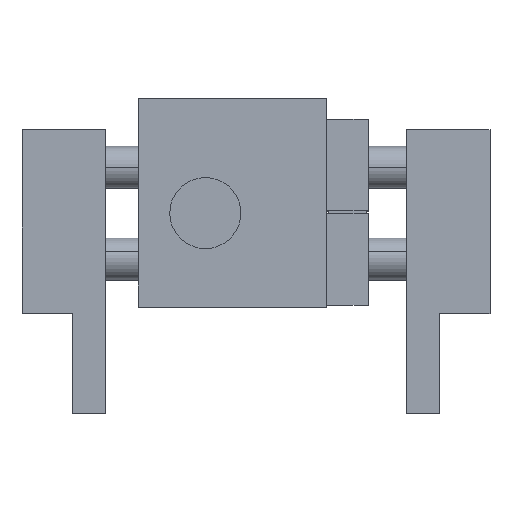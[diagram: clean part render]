
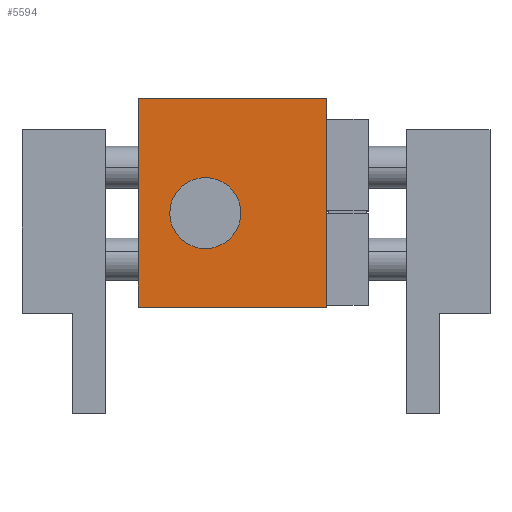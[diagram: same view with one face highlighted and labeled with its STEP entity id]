
A CAD part, top view. The second image highlights one B-rep face of the part: STEP entity #5594.
In plain terms, the highlighted planar face has unit normal (0, 0, 1).
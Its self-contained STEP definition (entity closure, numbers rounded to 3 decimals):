
#336 = ORIENTED_EDGE ( 'NONE', *, *, #5534, .T. ) ;
#491 = VERTEX_POINT ( 'NONE', #2301 ) ;
#492 = EDGE_CURVE ( 'NONE', #491, #493, #2295, .T. ) ;
#493 = VERTEX_POINT ( 'NONE', #2291 ) ;
#2287 = DIRECTION ( 'NONE',  ( 1., 0., 0. ) ) ;
#2288 = DIRECTION ( 'NONE',  ( 0., 0., 1. ) ) ;
#2289 = CARTESIAN_POINT ( 'NONE',  ( 16., 22.5, 30. ) ) ;
#2291 = CARTESIAN_POINT ( 'NONE',  ( 24.5, 22.5, 30. ) ) ;
#2295 = CIRCLE ( 'NONE', #2305, 8.5 ) ;
#2301 = CARTESIAN_POINT ( 'NONE',  ( 7.5, 22.5, 30. ) ) ;
#2305 = AXIS2_PLACEMENT_3D ( 'NONE', #2289, #2288, #2287 ) ;
#4014 = DIRECTION ( 'NONE',  ( 0., -1., 0. ) ) ;
#4015 = VECTOR ( 'NONE', #4014, 1000. ) ;
#4033 = CARTESIAN_POINT ( 'NONE',  ( 0., 0., 30. ) ) ;
#4034 = LINE ( 'NONE', #4033, #4015 ) ;
#4039 = CARTESIAN_POINT ( 'NONE',  ( 0., 0., 30. ) ) ;
#4436 = CARTESIAN_POINT ( 'NONE',  ( 0., 0., 30. ) ) ;
#4437 = LINE ( 'NONE', #4436, #4475 ) ;
#4474 = DIRECTION ( 'NONE',  ( 1., 0., 0. ) ) ;
#4475 = VECTOR ( 'NONE', #4474, 1000. ) ;
#4477 = LINE ( 'NONE', #4499, #4498 ) ;
#4486 = CARTESIAN_POINT ( 'NONE',  ( 45., 50., 30. ) ) ;
#4490 = CIRCLE ( 'NONE', #4539, 8.5 ) ;
#4497 = DIRECTION ( 'NONE',  ( 0., 1., 0. ) ) ;
#4498 = VECTOR ( 'NONE', #4497, 1000. ) ;
#4499 = CARTESIAN_POINT ( 'NONE',  ( 45., 0., 30. ) ) ;
#4517 = FACE_OUTER_BOUND ( 'NONE', #5595, .T. ) ;
#4518 = FACE_BOUND ( 'NONE', #5576, .T. ) ;
#4526 = DIRECTION ( 'NONE',  ( 1., 0., 0. ) ) ;
#4527 = DIRECTION ( 'NONE',  ( 0., 0., 1. ) ) ;
#4528 = CARTESIAN_POINT ( 'NONE',  ( 16., 22.5, 30. ) ) ;
#4529 = LINE ( 'NONE', #4537, #4536 ) ;
#4535 = DIRECTION ( 'NONE',  ( -1., 0., 0. ) ) ;
#4536 = VECTOR ( 'NONE', #4535, 1000. ) ;
#4537 = CARTESIAN_POINT ( 'NONE',  ( 0., 50., 30. ) ) ;
#4539 = AXIS2_PLACEMENT_3D ( 'NONE', #4528, #4527, #4526 ) ;
#4567 = DIRECTION ( 'NONE',  ( -1., 0., 0. ) ) ;
#4568 = DIRECTION ( 'NONE',  ( 0., 0., -1. ) ) ;
#4569 = CARTESIAN_POINT ( 'NONE',  ( 0., 50., 30. ) ) ;
#4570 = AXIS2_PLACEMENT_3D ( 'NONE', #4569, #4568, #4567 ) ;
#4571 = PLANE ( 'NONE',  #4570 ) ;
#4588 = CARTESIAN_POINT ( 'NONE',  ( 45., 0., 30. ) ) ;
#4593 = CARTESIAN_POINT ( 'NONE',  ( 0., 50., 30. ) ) ;
#5283 = VERTEX_POINT ( 'NONE', #4039 ) ;
#5303 = EDGE_CURVE ( 'NONE', #5614, #5283, #4034, .T. ) ;
#5534 = EDGE_CURVE ( 'NONE', #5283, #5617, #4437, .T. ) ;
#5556 = ORIENTED_EDGE ( 'NONE', *, *, #5561, .T. ) ;
#5561 = EDGE_CURVE ( 'NONE', #5617, #5569, #4477, .T. ) ;
#5569 = VERTEX_POINT ( 'NONE', #4486 ) ;
#5576 = EDGE_LOOP ( 'NONE', ( #5586, #5584 ) ) ;
#5577 = EDGE_CURVE ( 'NONE', #493, #491, #4490, .T. ) ;
#5582 = EDGE_CURVE ( 'NONE', #5569, #5614, #4529, .T. ) ;
#5584 = ORIENTED_EDGE ( 'NONE', *, *, #492, .F. ) ;
#5586 = ORIENTED_EDGE ( 'NONE', *, *, #5577, .F. ) ;
#5594 = ADVANCED_FACE ( 'NONE', ( #4518, #4517 ), #4571, .F. ) ;
#5595 = EDGE_LOOP ( 'NONE', ( #5596, #336, #5556, #5618 ) ) ;
#5596 = ORIENTED_EDGE ( 'NONE', *, *, #5303, .T. ) ;
#5614 = VERTEX_POINT ( 'NONE', #4593 ) ;
#5617 = VERTEX_POINT ( 'NONE', #4588 ) ;
#5618 = ORIENTED_EDGE ( 'NONE', *, *, #5582, .T. ) ;
